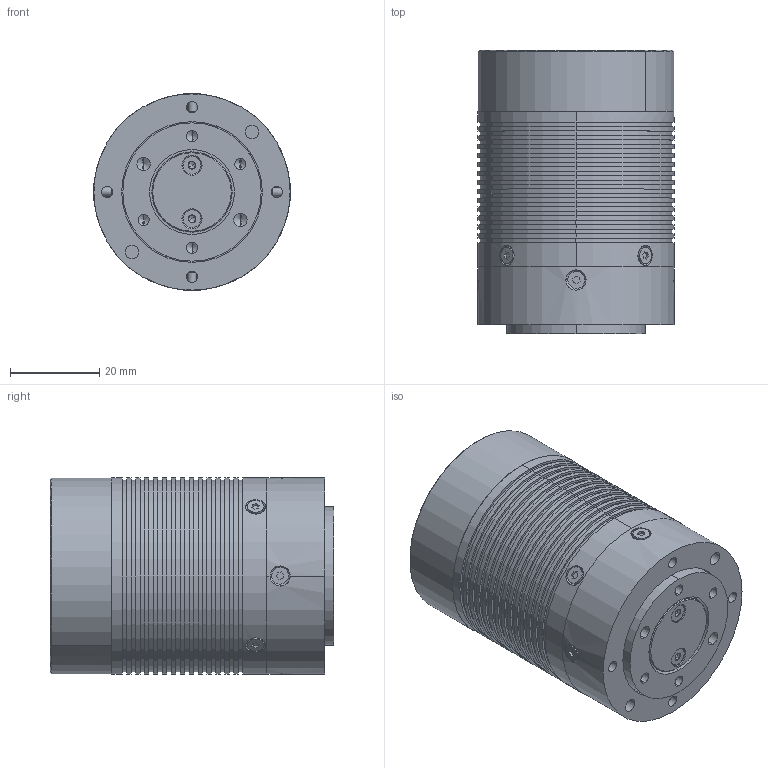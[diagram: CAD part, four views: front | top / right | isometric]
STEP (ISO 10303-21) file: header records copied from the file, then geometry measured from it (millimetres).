
FILE_DESCRIPTION (( 'STEP AP203' ), '1' );
FILE_NAME ('RMD-X2-P28-7 外形图.STEP', '2026-09-20T07:34:07', ( '微软用户' ), ( '微软中国' ), 'SwSTEP 2.0', 'SolidWorks 2020', '' );
FILE_SCHEMA (( 'CONFIG_CONTROL_DESIGN' ));
Length unit declared in the file: millimetre
Products named in the file (11): XMT.105.017.STEP; XMT.105.009.STEP; 8MT.013.028.STEP; M2X4.STEP; RMD-X2-P28-7 俋倛芞; 8MT.034.006.STEP; XMT.105.025.STEP; ______________ M2_M2x4  12.9____.STEP; M2X18.STEP; X2 V1.1_奻啣 2026-09-18; X2 V1.3_狟啣 2026-09-18
Assembly tree (19 placements, depth 2):
  RMD-X2-P28-7 俋倛芞
    8MT.034.006.STEP
    ______________ M2_M2x4  12.9____.STEP  x8
    XMT.105.009.STEP
    XMT.105.017.STEP
    XMT.105.025.STEP
    8MT.013.028.STEP
    M2X18.STEP  x2
    M2X4.STEP  x2
    X2 V1.1_奻啣 2026-09-18
    X2 V1.3_狟啣 2026-09-18
Bounding box: 44.01 x 63.5 x 44.01 mm (x, y, z)
Volume: 23990.4 mm3; surface area: 36101.1 mm2
Topology: 52 solids, 52 shells, 2774 faces, 7365 edges, 4799 vertices
Faces by surface type: plane 1192, cylinder 1116, bspline 330, cone 124, sphere 8, torus 4
Entity records: 88786 total; most frequent: CARTESIAN_POINT 20933, ORIENTED_EDGE 14010, DIRECTION 13019, EDGE_CURVE 7005, VERTEX_POINT 4601, AXIS2_PLACEMENT_3D 4527, LINE 3965, VECTOR 3965
